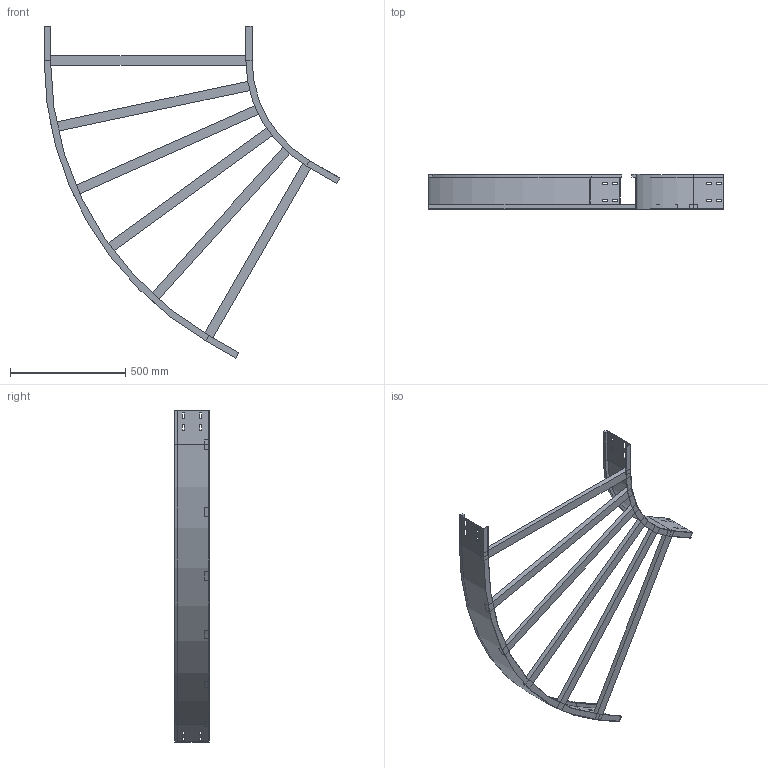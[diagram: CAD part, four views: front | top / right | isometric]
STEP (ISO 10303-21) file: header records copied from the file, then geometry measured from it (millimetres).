
FILE_DESCRIPTION (( 'STEP AP214' ), '1' );
FILE_NAME ('13J5F900.step', '2025-02-21T16:25:02', ( '' ), ( '' ), 'SwSTEP 2.0', 'SolidWorks 2023', '' );
FILE_SCHEMA (( 'AUTOMOTIVE_DESIGN' ));
Length unit declared in the file: millimetre
Products named in the file (4): LONGH.INTERNO 60°_H150_R500; 13J5F900; LONGH.ESTERNO 60°_H150_R500+900; TRAVERSINO_900
Assembly tree (8 placements, depth 2):
  13J5F900
    LONGH.INTERNO 60°_H150_R500
    LONGH.ESTERNO 60°_H150_R500+900
    TRAVERSINO_900  x6
Bounding box: 1279.9 x 150 x 1437.44 mm (x, y, z)
Volume: 5750964 mm3; surface area: 1656974.7 mm2
Topology: 8 solids, 8 shells, 152 faces, 376 edges, 240 vertices
Faces by surface type: plane 144, cylinder 8
Entity records: 3845 total; most frequent: CARTESIAN_POINT 649, ORIENTED_EDGE 632, DIRECTION 598, EDGE_CURVE 316, LINE 300, VECTOR 300, VERTEX_POINT 200, EDGE_LOOP 154
